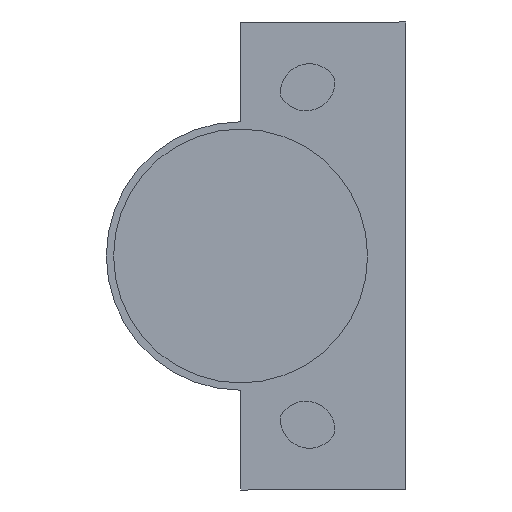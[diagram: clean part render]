
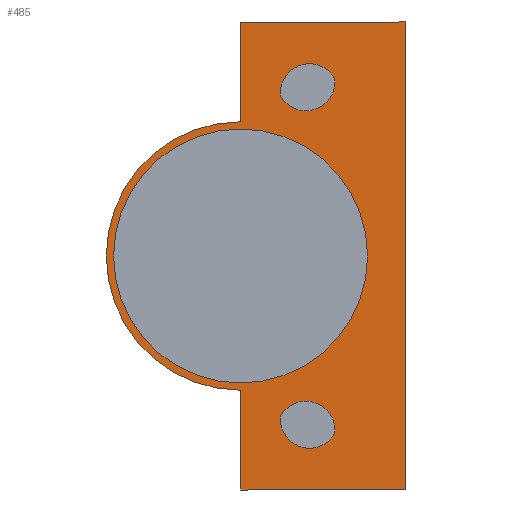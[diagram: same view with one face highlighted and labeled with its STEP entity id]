
A CAD part, front view. The second image highlights one B-rep face of the part: STEP entity #485.
In plain terms, the highlighted planar face has unit normal (0, -1, 0).
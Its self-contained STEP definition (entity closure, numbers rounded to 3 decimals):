
#1 = VERTEX_POINT ( 'NONE', #59 ) ;
#16 = EDGE_CURVE ( 'NONE', #816, #280, #1428, .T. ) ;
#37 = CIRCLE ( 'NONE', #1401, 18.5 ) ;
#59 = CARTESIAN_POINT ( 'NONE',  ( 8.03, -38.5, -22.01 ) ) ;
#64 = DIRECTION ( 'NONE',  ( -1., 0., 0. ) ) ;
#90 = VERTEX_POINT ( 'NONE', #1107 ) ;
#98 = DIRECTION ( 'NONE',  ( 1., 0., 0. ) ) ;
#128 = AXIS2_PLACEMENT_3D ( 'NONE', #836, #1062, #281 ) ;
#132 = CARTESIAN_POINT ( 'NONE',  ( 2.5, -38.5, -32.25 ) ) ;
#147 = DIRECTION ( 'NONE',  ( 0., 1., 0. ) ) ;
#152 = EDGE_CURVE ( 'NONE', #1398, #1099, #417, .T. ) ;
#164 = DIRECTION ( 'NONE',  ( 0., 0., 1. ) ) ;
#169 = PLANE ( 'NONE',  #128 ) ;
#197 = DIRECTION ( 'NONE',  ( 1., 0., 0. ) ) ;
#213 = EDGE_CURVE ( 'NONE', #90, #1061, #757, .T. ) ;
#217 = CARTESIAN_POINT ( 'NONE',  ( 8.03, -38.5, 22.01 ) ) ;
#225 = FACE_BOUND ( 'NONE', #335, .T. ) ;
#260 = ORIENTED_EDGE ( 'NONE', *, *, #213, .F. ) ;
#261 = DIRECTION ( 'NONE',  ( -1., 0., 0. ) ) ;
#264 = AXIS2_PLACEMENT_3D ( 'NONE', #382, #147, #1164 ) ;
#268 = VERTEX_POINT ( 'NONE', #1246 ) ;
#278 = CIRCLE ( 'NONE', #949, 4. ) ;
#280 = VERTEX_POINT ( 'NONE', #674 ) ;
#281 = DIRECTION ( 'NONE',  ( -1., 0., 0. ) ) ;
#288 = ORIENTED_EDGE ( 'NONE', *, *, #152, .T. ) ;
#330 = DIRECTION ( 'NONE',  ( 0., -1., 0. ) ) ;
#335 = EDGE_LOOP ( 'NONE', ( #1370, #1001, #495 ) ) ;
#343 = FACE_BOUND ( 'NONE', #1110, .T. ) ;
#372 = ORIENTED_EDGE ( 'NONE', *, *, #780, .F. ) ;
#376 = DIRECTION ( 'NONE',  ( 0., 1., 0. ) ) ;
#382 = CARTESIAN_POINT ( 'NONE',  ( 12., -38.5, -22.5 ) ) ;
#388 = EDGE_CURVE ( 'NONE', #280, #1135, #929, .T. ) ;
#393 = CARTESIAN_POINT ( 'NONE',  ( 12., -38.5, -22.5 ) ) ;
#408 = DIRECTION ( 'NONE',  ( -1., 0., 0. ) ) ;
#417 = LINE ( 'NONE', #641, #597 ) ;
#420 = DIRECTION ( 'NONE',  ( 0., 0., -1. ) ) ;
#422 = DIRECTION ( 'NONE',  ( 0., 1., 0. ) ) ;
#455 = FACE_BOUND ( 'NONE', #789, .T. ) ;
#483 = EDGE_CURVE ( 'NONE', #503, #1133, #524, .T. ) ;
#485 = ADVANCED_FACE ( 'NONE', ( #1260, #225, #343, #455 ), #169, .F. ) ;
#489 = DIRECTION ( 'NONE',  ( -1., 0., 0. ) ) ;
#495 = ORIENTED_EDGE ( 'NONE', *, *, #1469, .T. ) ;
#498 = CARTESIAN_POINT ( 'NONE',  ( 25.25, -38.5, -32.25 ) ) ;
#503 = VERTEX_POINT ( 'NONE', #1309 ) ;
#523 = DIRECTION ( 'NONE',  ( -1., 0., 0. ) ) ;
#524 = CIRCLE ( 'NONE', #672, 17.5 ) ;
#597 = VECTOR ( 'NONE', #197, 1000. ) ;
#604 = CARTESIAN_POINT ( 'NONE',  ( 12., -38.5, 22.5 ) ) ;
#617 = DIRECTION ( 'NONE',  ( 0., 1., 0. ) ) ;
#620 = LINE ( 'NONE', #1389, #1234 ) ;
#624 = CARTESIAN_POINT ( 'NONE',  ( 2.5, -38.5, -31. ) ) ;
#632 = CARTESIAN_POINT ( 'NONE',  ( 2.5, -38.5, 0. ) ) ;
#641 = CARTESIAN_POINT ( 'NONE',  ( 25.25, -38.5, -32.25 ) ) ;
#642 = CARTESIAN_POINT ( 'NONE',  ( 25.25, -38.5, 32.25 ) ) ;
#655 = VECTOR ( 'NONE', #98, 1000. ) ;
#662 = LINE ( 'NONE', #624, #992 ) ;
#672 = AXIS2_PLACEMENT_3D ( 'NONE', #1420, #1067, #64 ) ;
#674 = CARTESIAN_POINT ( 'NONE',  ( 8., -38.5, 22.5 ) ) ;
#706 = EDGE_CURVE ( 'NONE', #942, #268, #37, .T. ) ;
#717 = DIRECTION ( 'NONE',  ( 0., 1., 0. ) ) ;
#757 = LINE ( 'NONE', #769, #655 ) ;
#768 = EDGE_LOOP ( 'NONE', ( #1377, #288, #1081, #260, #1147, #1073 ) ) ;
#769 = CARTESIAN_POINT ( 'NONE',  ( 25.25, -38.5, 32.25 ) ) ;
#780 = EDGE_CURVE ( 'NONE', #1133, #503, #1426, .T. ) ;
#781 = AXIS2_PLACEMENT_3D ( 'NONE', #834, #1328, #408 ) ;
#789 = EDGE_LOOP ( 'NONE', ( #372, #841 ) ) ;
#816 = VERTEX_POINT ( 'NONE', #217 ) ;
#834 = CARTESIAN_POINT ( 'NONE',  ( 11.5, -38.5, 24. ) ) ;
#836 = CARTESIAN_POINT ( 'NONE',  ( 2.5, -38.5, 0. ) ) ;
#841 = ORIENTED_EDGE ( 'NONE', *, *, #483, .F. ) ;
#845 = AXIS2_PLACEMENT_3D ( 'NONE', #1287, #938, #261 ) ;
#847 = CIRCLE ( 'NONE', #264, 4. ) ;
#849 = CIRCLE ( 'NONE', #781, 4. ) ;
#862 = AXIS2_PLACEMENT_3D ( 'NONE', #604, #376, #523 ) ;
#885 = CARTESIAN_POINT ( 'NONE',  ( 15.47, -38.5, -24.49 ) ) ;
#900 = ORIENTED_EDGE ( 'NONE', *, *, #1104, .T. ) ;
#920 = DIRECTION ( 'NONE',  ( 0., 0., 1. ) ) ;
#929 = CIRCLE ( 'NONE', #845, 4. ) ;
#937 = CARTESIAN_POINT ( 'NONE',  ( 2.5, -38.5, -18.5 ) ) ;
#938 = DIRECTION ( 'NONE',  ( 0., 1., 0. ) ) ;
#942 = VERTEX_POINT ( 'NONE', #937 ) ;
#949 = AXIS2_PLACEMENT_3D ( 'NONE', #1304, #717, #489 ) ;
#990 = CARTESIAN_POINT ( 'NONE',  ( 15.47, -38.5, 24.49 ) ) ;
#992 = VECTOR ( 'NONE', #164, 1000. ) ;
#1001 = ORIENTED_EDGE ( 'NONE', *, *, #1456, .T. ) ;
#1008 = CARTESIAN_POINT ( 'NONE',  ( 2.5, -38.5, 0. ) ) ;
#1013 = EDGE_CURVE ( 'NONE', #1257, #1189, #1361, .T. ) ;
#1041 = EDGE_CURVE ( 'NONE', #1398, #942, #662, .T. ) ;
#1043 = VECTOR ( 'NONE', #420, 1000. ) ;
#1059 = DIRECTION ( 'NONE',  ( -1., 0., 0. ) ) ;
#1061 = VERTEX_POINT ( 'NONE', #1201 ) ;
#1062 = DIRECTION ( 'NONE',  ( 0., 1., 0. ) ) ;
#1067 = DIRECTION ( 'NONE',  ( 0., -1., 0. ) ) ;
#1073 = ORIENTED_EDGE ( 'NONE', *, *, #706, .F. ) ;
#1081 = ORIENTED_EDGE ( 'NONE', *, *, #1165, .F. ) ;
#1098 = CARTESIAN_POINT ( 'NONE',  ( 8., -38.5, -22.5 ) ) ;
#1099 = VERTEX_POINT ( 'NONE', #498 ) ;
#1104 = EDGE_CURVE ( 'NONE', #1135, #816, #849, .T. ) ;
#1107 = CARTESIAN_POINT ( 'NONE',  ( 2.5, -38.5, 32.25 ) ) ;
#1110 = EDGE_LOOP ( 'NONE', ( #1394, #1384, #900 ) ) ;
#1122 = AXIS2_PLACEMENT_3D ( 'NONE', #393, #617, #1059 ) ;
#1133 = VERTEX_POINT ( 'NONE', #1461 ) ;
#1135 = VERTEX_POINT ( 'NONE', #990 ) ;
#1147 = ORIENTED_EDGE ( 'NONE', *, *, #1417, .F. ) ;
#1164 = DIRECTION ( 'NONE',  ( -1., 0., 0. ) ) ;
#1165 = EDGE_CURVE ( 'NONE', #1061, #1099, #1348, .T. ) ;
#1189 = VERTEX_POINT ( 'NONE', #1098 ) ;
#1201 = CARTESIAN_POINT ( 'NONE',  ( 25.25, -38.5, 32.25 ) ) ;
#1234 = VECTOR ( 'NONE', #920, 1000. ) ;
#1243 = DIRECTION ( 'NONE',  ( -1., 0., 0. ) ) ;
#1246 = CARTESIAN_POINT ( 'NONE',  ( 2.5, -38.5, 18.5 ) ) ;
#1257 = VERTEX_POINT ( 'NONE', #885 ) ;
#1260 = FACE_OUTER_BOUND ( 'NONE', #768, .T. ) ;
#1287 = CARTESIAN_POINT ( 'NONE',  ( 12., -38.5, 22.5 ) ) ;
#1304 = CARTESIAN_POINT ( 'NONE',  ( 11.5, -38.5, -24. ) ) ;
#1309 = CARTESIAN_POINT ( 'NONE',  ( 20., -38.5, 0. ) ) ;
#1328 = DIRECTION ( 'NONE',  ( 0., 1., 0. ) ) ;
#1348 = LINE ( 'NONE', #642, #1043 ) ;
#1361 = CIRCLE ( 'NONE', #1122, 4. ) ;
#1370 = ORIENTED_EDGE ( 'NONE', *, *, #1013, .T. ) ;
#1377 = ORIENTED_EDGE ( 'NONE', *, *, #1041, .F. ) ;
#1381 = AXIS2_PLACEMENT_3D ( 'NONE', #1008, #330, #1243 ) ;
#1384 = ORIENTED_EDGE ( 'NONE', *, *, #388, .T. ) ;
#1389 = CARTESIAN_POINT ( 'NONE',  ( 2.5, -38.5, 18.5 ) ) ;
#1394 = ORIENTED_EDGE ( 'NONE', *, *, #16, .T. ) ;
#1398 = VERTEX_POINT ( 'NONE', #132 ) ;
#1401 = AXIS2_PLACEMENT_3D ( 'NONE', #632, #422, #1438 ) ;
#1417 = EDGE_CURVE ( 'NONE', #268, #90, #620, .T. ) ;
#1420 = CARTESIAN_POINT ( 'NONE',  ( 2.5, -38.5, 0. ) ) ;
#1426 = CIRCLE ( 'NONE', #1381, 17.5 ) ;
#1428 = CIRCLE ( 'NONE', #862, 4. ) ;
#1438 = DIRECTION ( 'NONE',  ( -1., 0., 0. ) ) ;
#1456 = EDGE_CURVE ( 'NONE', #1189, #1, #847, .T. ) ;
#1461 = CARTESIAN_POINT ( 'NONE',  ( -15., -38.5, 0. ) ) ;
#1469 = EDGE_CURVE ( 'NONE', #1, #1257, #278, .T. ) ;
